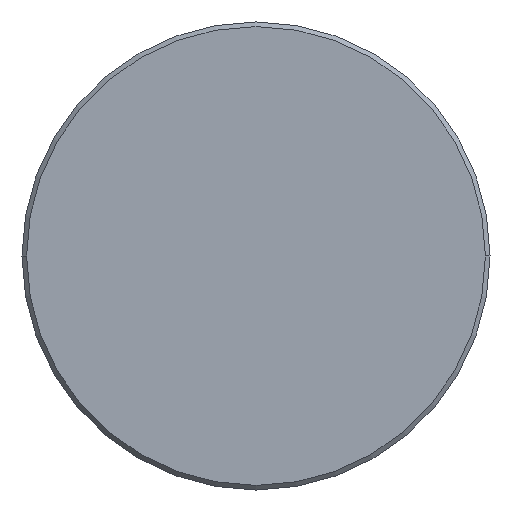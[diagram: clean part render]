
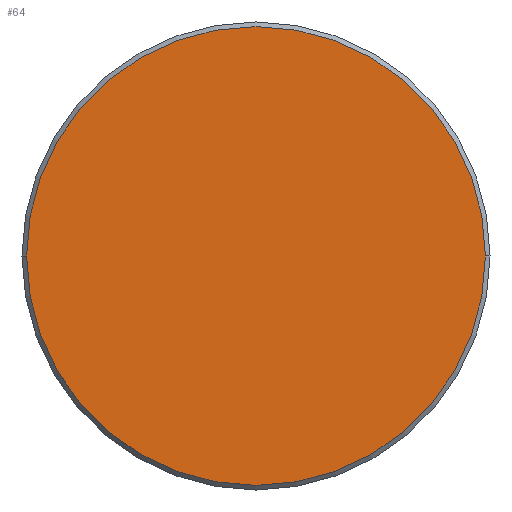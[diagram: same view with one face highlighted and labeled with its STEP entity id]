
A CAD part, left-side view. The second image highlights one B-rep face of the part: STEP entity #64.
In plain terms, the highlighted planar face has unit normal (-1, 0, 0).
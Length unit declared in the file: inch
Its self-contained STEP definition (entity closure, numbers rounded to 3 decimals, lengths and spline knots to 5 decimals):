
#52 = CARTESIAN_POINT ( 'NONE',  ( 0., 0., 0. ) ) ;
#64 = ADVANCED_FACE ( 'NONE', ( #178 ), #194, .T. ) ;
#70 = EDGE_CURVE ( 'NONE', #72, #197, #367, .T. ) ;
#72 = VERTEX_POINT ( 'NONE', #229 ) ;
#102 = AXIS2_PLACEMENT_3D ( 'NONE', #142, #308, #375 ) ;
#118 = AXIS2_PLACEMENT_3D ( 'NONE', #52, #137, #377 ) ;
#137 = DIRECTION ( 'NONE',  ( -1., 0., 0. ) ) ;
#140 = AXIS2_PLACEMENT_3D ( 'NONE', #160, #272, #304 ) ;
#142 = CARTESIAN_POINT ( 'NONE',  ( 0., 0., 0. ) ) ;
#145 = ORIENTED_EDGE ( 'NONE', *, *, #70, .T. ) ;
#146 = CARTESIAN_POINT ( 'NONE',  ( 0., -0.19912, 0. ) ) ;
#160 = CARTESIAN_POINT ( 'NONE',  ( 0., 0., 0. ) ) ;
#178 = FACE_OUTER_BOUND ( 'NONE', #214, .T. ) ;
#194 = PLANE ( 'NONE',  #102 ) ;
#197 = VERTEX_POINT ( 'NONE', #146 ) ;
#214 = EDGE_LOOP ( 'NONE', ( #145, #309 ) ) ;
#224 = CIRCLE ( 'NONE', #140, 0.19912 ) ;
#229 = CARTESIAN_POINT ( 'NONE',  ( 0., 0.19912, 0. ) ) ;
#272 = DIRECTION ( 'NONE',  ( -1., 0., 0. ) ) ;
#304 = DIRECTION ( 'NONE',  ( 0., -1., 0. ) ) ;
#308 = DIRECTION ( 'NONE',  ( -1., 0., 0. ) ) ;
#309 = ORIENTED_EDGE ( 'NONE', *, *, #374, .T. ) ;
#367 = CIRCLE ( 'NONE', #118, 0.19912 ) ;
#374 = EDGE_CURVE ( 'NONE', #197, #72, #224, .T. ) ;
#375 = DIRECTION ( 'NONE',  ( 0., -1., 0. ) ) ;
#377 = DIRECTION ( 'NONE',  ( 0., -1., 0. ) ) ;
